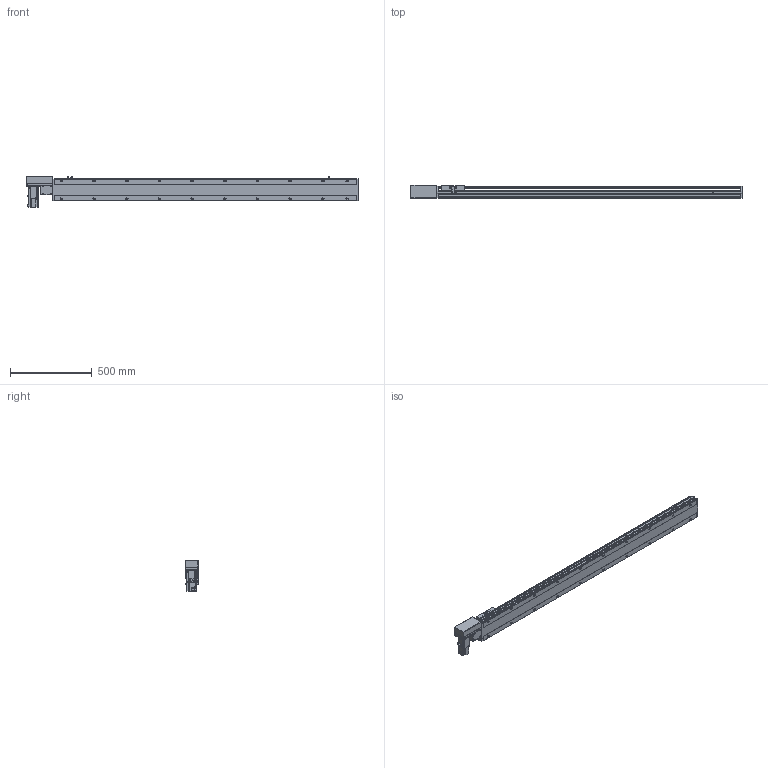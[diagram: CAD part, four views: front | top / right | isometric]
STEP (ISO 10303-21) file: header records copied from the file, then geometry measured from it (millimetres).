
FILE_DESCRIPTION( ( 'STEP AP214' ), '1' );
FILE_NAME( 'x:/temp/worker_27/temp/exporttempdir_6708_376_o3emU/format_0/PBS140-P40-S1600-R-T40-C1-N(0).stp', '2022-06-06T01:28:48', ( 'License CC BY-ND 4.0' ), ( 'CADENAS' ), ' ', 'PARTsolutions', ' ' );
FILE_SCHEMA( ( 'AUTOMOTIVE_DESIGN { 1 0 10303 214 1 1 1 1 }' ) );
Length unit declared in the file: millimetre
Products named in the file (7): PBS140-P40-S1600-R-T40-C1-N(0); _PBS140-S1600()_body; _PBS140T-R_motors; _T40-p1; _PBS140_sliser; _PBS140_plant; _PBS140_sensor
Assembly tree (8 placements, depth 2):
  PBS140-P40-S1600-R-T40-C1-N(0)
    _PBS140-S1600()_body
    _PBS140T-R_motors
    _T40-p1
    _PBS140_sliser
    _PBS140_plant
    _PBS140_sensor  x3
Bounding box: 2033 x 80.5 x 189.7 mm (x, y, z)
Volume: 9028383.4 mm3; surface area: 1555655.6 mm2
Topology: 8 solids, 8 shells, 1107 faces, 2916 edges, 1905 vertices
Faces by surface type: plane 704, cylinder 347, cone 46, sphere 8, torus 2
Full cylindrical faces by diameter (mm): 3.242 x4, 4 x2, 4.134 x4, 4.4 x8, 4.5 x2, 4.8 x4, 4.917 x28, 5.5 x7, 6 x2, 7 x22, 7.5 x8, 8 x12, 8.5 x4, 10.5 x20, 14 x1, 30 x2, 50 x2
Entity records: 40573 total; most frequent: CARTESIAN_POINT 6587, DIRECTION 5337, ORIENTED_EDGE 5032, EDGE_CURVE 2516, AXIS2_PLACEMENT_3D 1867, VERTEX_POINT 1749, LINE 1603, VECTOR 1603
